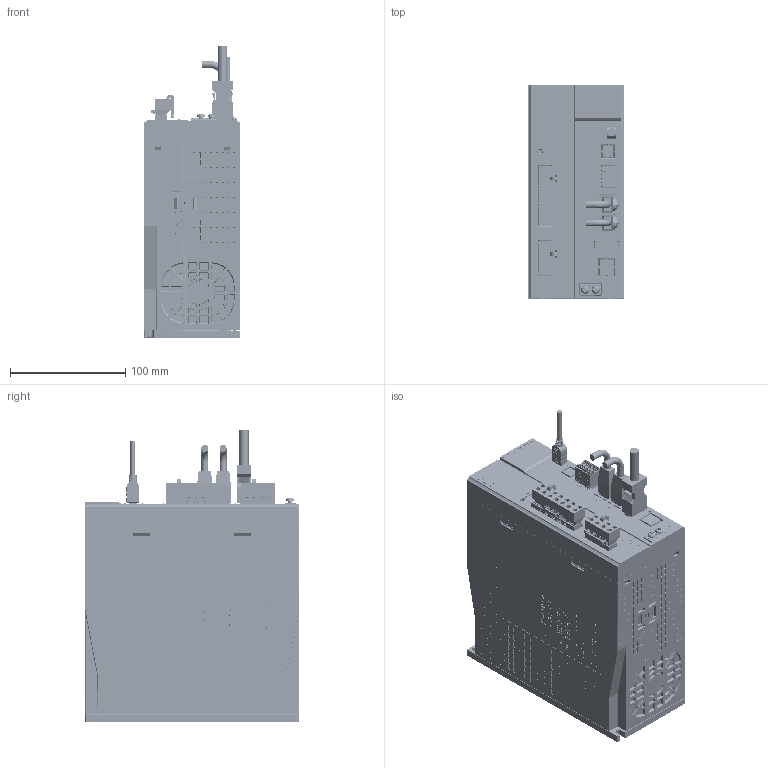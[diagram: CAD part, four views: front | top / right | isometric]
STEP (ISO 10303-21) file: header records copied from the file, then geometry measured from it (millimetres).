
FILE_DESCRIPTION(/* description */ (''),/* implementation_level */ '2;1');
FILE_NAME(/* name */ 'DS5C2-42P3-PTA-官网图+EPLAN图-240423',/* time_stamp */ '2024-04-24T10:48:37+08:00',/* author */ (''),/* organization */ (''),/* preprocessor_version */ 'ST-DEVELOPER v19.2',/* originating_system */ 'Rhino 8.1',/* authorisation */ '');
FILE_SCHEMA (('CONFIG_CONTROL_DESIGN'));
Products named in the file (3): Document; 图块 02; 图块 01
Bounding box: 83.1 x 185.7 x 252.2 mm (x, y, z)
Volume: 1751319.6 mm3; surface area: 513301.8 mm2
Topology: 923 solids, 926 shells, 25029 faces, 65990 edges, 43141 vertices
Faces by surface type: plane 17328, cylinder 4364, bspline 3337
Entity records: 859612 total; most frequent: CARTESIAN_POINT 390182, ORIENTED_EDGE 131449, EDGE_CURVE 65752, B_SPLINE_CURVE_WITH_KNOTS 61568, VERTEX_POINT 43141, DIRECTION 29562, EDGE_LOOP 26804, AXIS2_PLACEMENT_3D 25627
